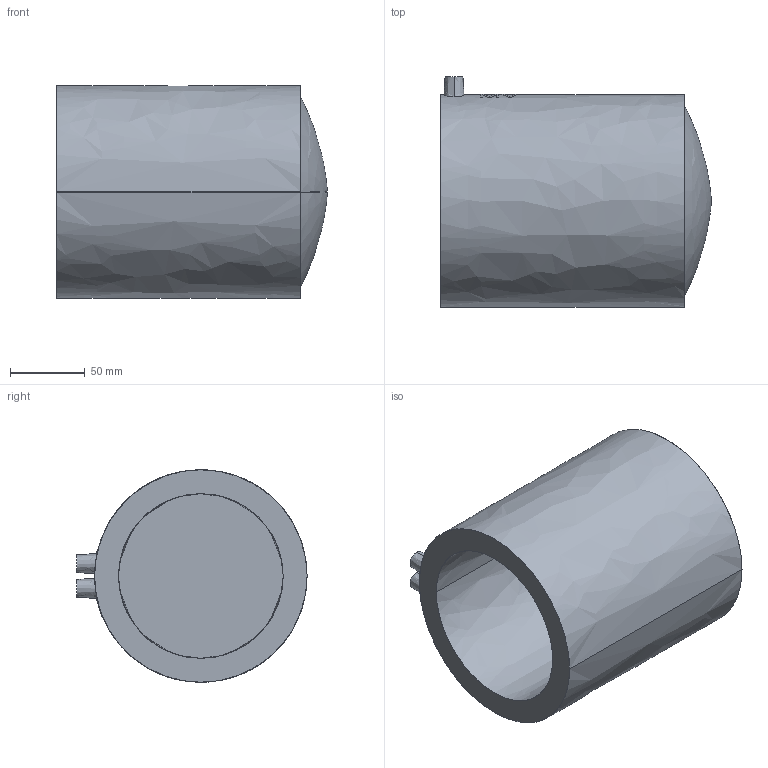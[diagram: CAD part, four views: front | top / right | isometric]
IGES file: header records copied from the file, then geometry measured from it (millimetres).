
Start section:  PTC IGES file: mv_d110.igs
Global section: file name: mv_d110.igs; native system: Pro/ENGINEER by Parametric Technology Corporation; preprocessor: 2006140; author: muellerc; organization: Unknown; date: 20060803.101511; units: millimetre
Bounding box: 181 x 153.8 x 142 mm (x, y, z)
Surface area: 135016.6 mm2 (no closed solid volume)
Topology: 0 solids, 0 shells, 53 faces, 325 edges, 330 vertices
Faces by surface type: bspline 53
